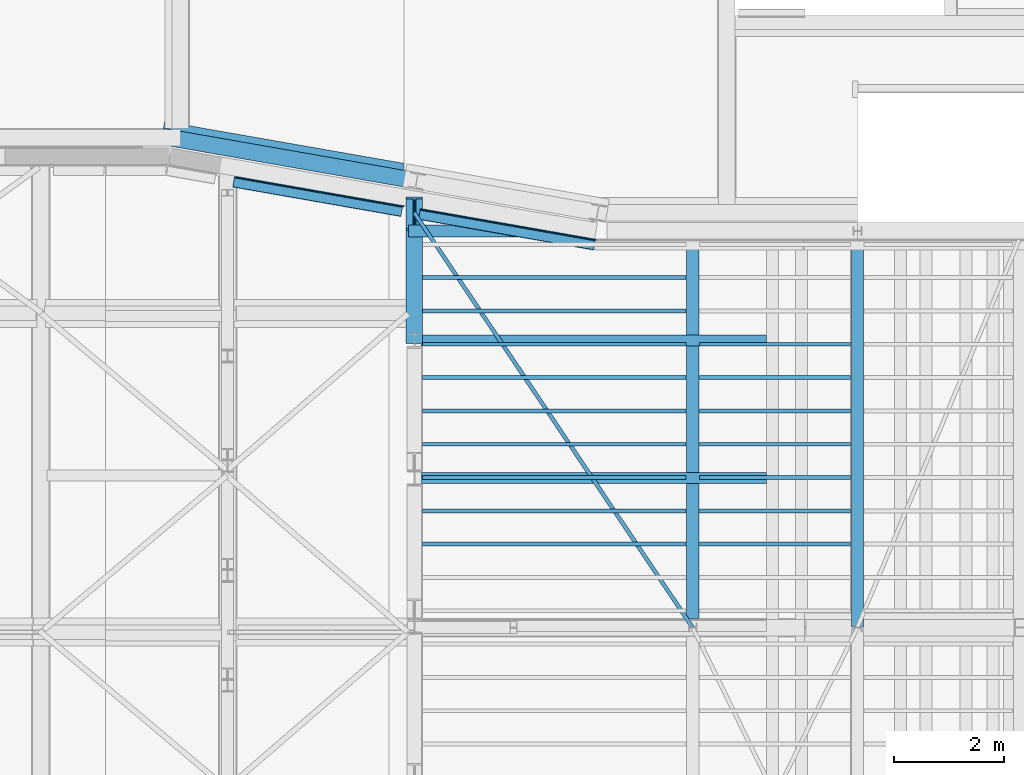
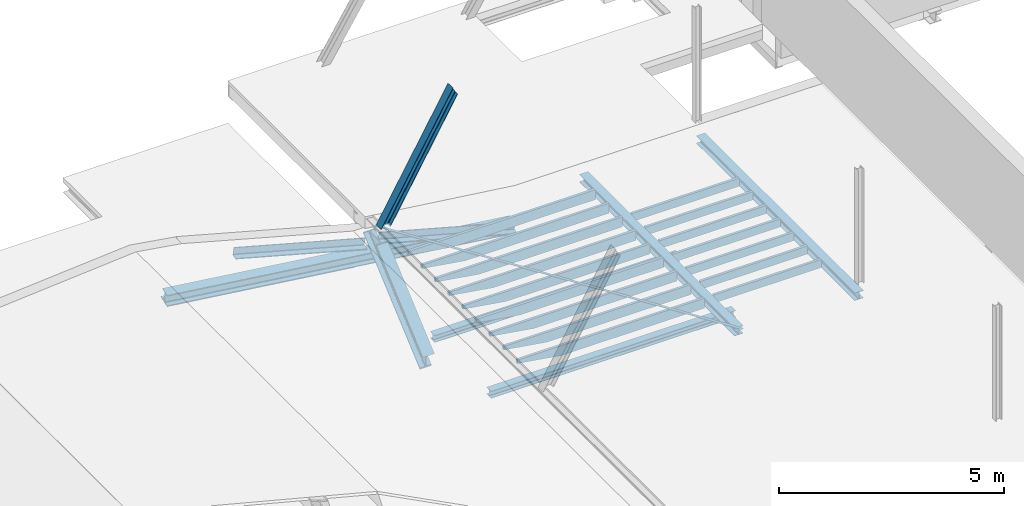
# One storey, part 31 of 50: 26 beams.
"""IFC2X3 building model written with IfcOpenShell, lengths in millimetres."""

from ifc_helpers import new_model, entity, si_unit, converted_unit, derived_unit, direction, frame, frame_2d, origin, origin_2d_with_axis, place, context, subcontext, project, spatial, polyline, circle_curve, parameter, trimmed, segment, composite_curve, rectangle, i_section, outline, extrude, clip, halfspace, bounded_halfspace, source, transform, mapped, material, material_list, type_object, type_shapes, element, save


model = new_model("IFC2X3")

# Units and contexts
model_context = context("Model", 3, precision=0.01, world=origin(), true_north=direction((6.12303176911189e-17, 1.0)))
body_context = subcontext(model_context, "Body", "Model", "MODEL_VIEW")
ifc_project = project(units=[si_unit("LENGTHUNIT", "METRE", prefix="MILLI"), si_unit("AREAUNIT", "SQUARE_METRE", prefix="MILLI"), si_unit("VOLUMEUNIT", "CUBIC_METRE"), converted_unit("PLANEANGLEUNIT", "DEGREE", entity("IfcRatioMeasure", 0.0174532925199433), si_unit("PLANEANGLEUNIT", "RADIAN"), dimensions=[0, 0, 0, 0, 0, 0, 0]), si_unit("MASSUNIT", "GRAM", prefix="KILO"), derived_unit("MASSDENSITYUNIT", [(si_unit("MASSUNIT", "GRAM", prefix="KILO"), 1), (si_unit("LENGTHUNIT", "METRE"), -3)]), derived_unit("MOMENTOFINERTIAUNIT", [(si_unit("LENGTHUNIT", "METRE"), 4)]), si_unit("TIMEUNIT", "SECOND"), si_unit("FREQUENCYUNIT", "HERTZ"), si_unit("THERMODYNAMICTEMPERATUREUNIT", "DEGREE_CELSIUS"), derived_unit("THERMALTRANSMITTANCEUNIT", [(si_unit("MASSUNIT", "GRAM", prefix="KILO"), 1), (si_unit("THERMODYNAMICTEMPERATUREUNIT", "KELVIN"), -1), (si_unit("TIMEUNIT", "SECOND"), -3)]), derived_unit("VOLUMETRICFLOWRATEUNIT", [(si_unit("LENGTHUNIT", "METRE"), 3), (si_unit("TIMEUNIT", "SECOND"), -1)]), si_unit("ELECTRICCURRENTUNIT", "AMPERE"), si_unit("ELECTRICVOLTAGEUNIT", "VOLT"), si_unit("POWERUNIT", "WATT"), si_unit("FORCEUNIT", "NEWTON", prefix="KILO"), si_unit("ILLUMINANCEUNIT", "LUX"), si_unit("LUMINOUSFLUXUNIT", "LUMEN"), si_unit("LUMINOUSINTENSITYUNIT", "CANDELA"), derived_unit("USERDEFINED", [(si_unit("MASSUNIT", "GRAM", prefix="KILO"), -1), (si_unit("LENGTHUNIT", "METRE"), -2), (si_unit("TIMEUNIT", "SECOND"), 3), (si_unit("LUMINOUSFLUXUNIT", "LUMEN"), 1)]), derived_unit("LINEARVELOCITYUNIT", [(si_unit("LENGTHUNIT", "METRE"), 1), (si_unit("TIMEUNIT", "SECOND"), -1)]), si_unit("PRESSUREUNIT", "PASCAL"), derived_unit("USERDEFINED", [(si_unit("LENGTHUNIT", "METRE"), -2), (si_unit("MASSUNIT", "GRAM", prefix="KILO"), 1), (si_unit("TIMEUNIT", "SECOND"), -2)]), derived_unit("LINEARFORCEUNIT", [(si_unit("MASSUNIT", "GRAM", prefix="KILO"), 1), (si_unit("LENGTHUNIT", "METRE"), 1), (si_unit("TIMEUNIT", "SECOND"), -2), (si_unit("LENGTHUNIT", "METRE"), -1)]), derived_unit("PLANARFORCEUNIT", [(si_unit("MASSUNIT", "GRAM", prefix="KILO"), 1), (si_unit("LENGTHUNIT", "METRE"), 1), (si_unit("TIMEUNIT", "SECOND"), -2), (si_unit("LENGTHUNIT", "METRE"), -2)])], contexts=[model_context])

# Site, building, storey
site_placement = place(None, origin())
site = spatial("IfcSite", under=ifc_project, at=site_placement, Name="Theater aan de Parade", CompositionType="ELEMENT")
building_placement = place(site_placement, origin())
building = spatial("IfcBuilding", under=site, at=building_placement, Name="Theater aan de Parade", CompositionType="ELEMENT")
storey_placement = place(building_placement, frame((0.0, 0.0, 15820.0)))
storey = spatial("IfcBuildingStorey", under=building, at=storey_placement, Name="04 vierde verdieping", CompositionType="ELEMENT", Elevation=15820.0)

# Beams
ifc_material_1 = material(Name="00_PBT_MAT_staal_S355")
ifc_material_2 = material(Name="00_PBT_MAT_Lucht")
ifc_material_list = material_list([ifc_material_2, ifc_material_1])
beam_type_1 = type_object("IfcBeamType", Name="28_PBT_SF_staal_H-profiel_met_ondergelaste_strip (void):S355_HE300B + ondergelaste strip d=12", PredefinedType="BEAM", material=ifc_material_list)
shared_shape = source(origin(), body_context, "Body", "SweptSolid", [
    extrude(rectangle(XDim=12.0, YDim=420.0, at=origin_2d_with_axis()), frame((-4112.59046725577, 65.0, -156.0), z_axis=(1.0, 0.0, 0.0), x_axis=(0.0, 0.0, -1.0)), (0.0, 0.0, 1.0), 4431.18093451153),
    extrude(outline(composite_curve([segment(polyline([(131.0, -150.0), (150.0, -150.0)]), True, "CONTINUOUS"), segment(polyline([(150.0, -150.0), (150.0, 150.0)]), True, "CONTINUOUS"), segment(polyline([(150.0, 150.0), (131.0, 150.0)]), True, "CONTINUOUS"), segment(polyline([(131.0, 150.0), (131.0, 32.5)]), True, "CONTINUOUS"), segment(trimmed(circle_curve(frame_2d((104.0, 32.5), x_axis=(1.0, 0.0)), 27.0000000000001), [parameter(270.0)], [parameter(0.0)], True, "PARAMETER"), False, "CONTINUOUS"), segment(polyline([(104.0, 5.49999999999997), (-104.0, 5.49999999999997)]), True, "CONTINUOUS"), segment(trimmed(circle_curve(frame_2d((-104.0, 32.5), x_axis=(0.0, -1.0)), 27.0), [parameter(270.0)], [parameter(0.0)], True, "PARAMETER"), False, "CONTINUOUS"), segment(polyline([(-131.0, 32.5), (-131.0, 150.0)]), True, "CONTINUOUS"), segment(polyline([(-131.0, 150.0), (-150.0, 150.0)]), True, "CONTINUOUS"), segment(polyline([(-150.0, 150.0), (-150.0, -150.0)]), True, "CONTINUOUS"), segment(polyline([(-150.0, -150.0), (-131.0, -150.0)]), True, "CONTINUOUS"), segment(polyline([(-131.0, -150.0), (-131.0, -32.5)]), True, "CONTINUOUS"), segment(trimmed(circle_curve(frame_2d((-104.0, -32.5), x_axis=(-1.0, 0.0)), 27.0), [parameter(269.999999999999)], [parameter(0.0)], True, "PARAMETER"), False, "CONTINUOUS"), segment(polyline([(-104.0, -5.50000000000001), (104.0, -5.50000000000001)]), True, "CONTINUOUS"), segment(trimmed(circle_curve(frame_2d((104.0, -32.5), x_axis=(0.0, 1.0)), 27.0), [parameter(270.0)], [parameter(0.0)], True, "PARAMETER"), False, "CONTINUOUS"), segment(polyline([(131.0, -32.5), (131.0, -150.0)]), True, "CONTINUOUS")], self_intersect=False)), frame((-4113.59046725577, 0.0, 0.0), z_axis=(1.0, 0.0, 0.0), x_axis=(0.0, 0.0, -1.0)), (0.0, 0.0, 1.0), 8227.18093451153),
])
type_shapes(beam_type_1, [shared_shape])
beam_1_placement = place(storey_placement, frame((55596.7451545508, 43715.1901551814, 160.0), z_axis=(0.0, 0.0, 1.0), x_axis=(0.985030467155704, -0.172380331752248, 0.0)))
element("IfcBeam", 1, at=beam_1_placement, inside=storey, type_object=beam_type_1, material=ifc_material_1, Name="28_PBT_SF_staal_H-profiel_met_ondergelaste_strip (void):S355_HE300B + ondergelaste strip d=12", ObjectType="28_PBT_SF_staal_H-profiel_met_ondergelaste_strip (void):S355_HE300B + ondergelaste strip d=12", context=body_context, shape_type="MappedRepresentation", body=[
    mapped(shared_shape, transform((0.0, 0.0, 0.0), scale=1.0)),
])
beam_type_2 = type_object("IfcBeamType", Name="28_PBT_SF_staal_H-profiel:S355_HE220A", PredefinedType="NOTDEFINED")
beam_2_placement = place(storey_placement, frame((56020.0226436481, 42700.0, 1501.58279935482), z_axis=(0.866025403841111, 0.0, -0.499999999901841), x_axis=(0.499999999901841, 0.0, 0.866025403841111)))
element("IfcBeam", 2, at=beam_2_placement, inside=storey, type_object=beam_type_2, material=ifc_material_1, Name="28_PBT_SF_staal_H-profiel:S355_HE220A", ObjectType="28_PBT_SF_staal_H-profiel:S355_HE220A", context=body_context, shape_type="Clipping", body=[
    clip(clip(extrude(outline(composite_curve([segment(polyline([(94.0, -110.0), (105.0, -110.0)]), True, "CONTINUOUS"), segment(polyline([(105.0, -110.0), (105.0, 110.0)]), True, "CONTINUOUS"), segment(polyline([(105.0, 110.0), (94.0, 110.0)]), True, "CONTINUOUS"), segment(polyline([(94.0, 110.0), (94.0, 21.5000000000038)]), True, "CONTINUOUS"), segment(trimmed(circle_curve(frame_2d((76.0, 21.5000000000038), x_axis=(1.0, 0.0)), 17.9999999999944), [parameter(269.999999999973)], [parameter(0.0)], True, "PARAMETER"), False, "CONTINUOUS"), segment(polyline([(76.0, 3.4999999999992), (-76.0, 3.4999999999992)]), True, "CONTINUOUS"), segment(trimmed(circle_curve(frame_2d((-76.0, 21.5000000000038), x_axis=(0.0, -1.0)), 17.9999999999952), [parameter(269.999999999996)], [parameter(0.0)], True, "PARAMETER"), False, "CONTINUOUS"), segment(polyline([(-94.0, 21.5000000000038), (-94.0, 110.0)]), True, "CONTINUOUS"), segment(polyline([(-94.0, 110.0), (-105.0, 110.0)]), True, "CONTINUOUS"), segment(polyline([(-105.0, 110.0), (-105.0, -110.0)]), True, "CONTINUOUS"), segment(polyline([(-105.0, -110.0), (-94.0, -110.0)]), True, "CONTINUOUS"), segment(polyline([(-94.0, -110.0), (-94.0, -21.4999999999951)]), True, "CONTINUOUS"), segment(trimmed(circle_curve(frame_2d((-76.0, -21.4999999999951), x_axis=(-1.0, 0.0)), 17.9999999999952), [parameter(269.999999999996)], [parameter(0.0)], True, "PARAMETER"), False, "CONTINUOUS"), segment(polyline([(-76.0, -3.4999999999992), (76.0, -3.4999999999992)]), True, "CONTINUOUS"), segment(trimmed(circle_curve(frame_2d((76.0, -21.4999999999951), x_axis=(0.0, 1.0)), 17.999999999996), [parameter(269.999999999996)], [parameter(0.0)], True, "PARAMETER"), False, "CONTINUOUS"), segment(polyline([(94.0, -21.4999999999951), (94.0, -110.0)]), True, "CONTINUOUS")], self_intersect=False)), frame((38.5868595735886, 0.0, 105.0), z_axis=(1.0, 0.0, 0.0), x_axis=(0.0, 0.0, -1.0)), (0.0, 0.0, 1.0), 3698.2983901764), halfspace(frame((175.616197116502, 21178.7704462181, 237.341774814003), z_axis=(-0.866025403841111, 0.0, 0.499999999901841), x_axis=(0.0, -1.0, 0.0)), False)), halfspace(frame((3733.05475086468, 11342.2001724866, 6.82799367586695), z_axis=(0.872134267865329, 0.0, 0.489266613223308), x_axis=(0.489266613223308, 0.0, -0.872134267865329)), False)),
])
beam_3_placement = place(storey_placement, frame((64216.05603639, 42700.0, 0.0), z_axis=(0.0, 0.0, 1.0), x_axis=(0.0, -1.0, 0.0)))
element("IfcBeam", 3, at=beam_3_placement, inside=storey, type_object=beam_type_2, material=ifc_material_1, Name="28_PBT_SF_staal_H-profiel:S355_HE220A", ObjectType="28_PBT_SF_staal_H-profiel:S355_HE220A", context=body_context, shape_type="SweptSolid", body=[
    extrude(outline(composite_curve([segment(polyline([(94.0, -110.0), (105.0, -110.0)]), True, "CONTINUOUS"), segment(polyline([(105.0, -110.0), (105.0, 110.0)]), True, "CONTINUOUS"), segment(polyline([(105.0, 110.0), (94.0, 110.0)]), True, "CONTINUOUS"), segment(polyline([(94.0, 110.0), (94.0, 21.5000000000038)]), True, "CONTINUOUS"), segment(trimmed(circle_curve(frame_2d((76.0, 21.5000000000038), x_axis=(1.0, 0.0)), 17.9999999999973), [parameter(269.999999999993)], [parameter(0.0)], True, "PARAMETER"), False, "CONTINUOUS"), segment(polyline([(76.0, 3.4999999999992), (-76.0, 3.4999999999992)]), True, "CONTINUOUS"), segment(trimmed(circle_curve(frame_2d((-76.0, 21.5000000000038), x_axis=(0.0, -1.0)), 17.9999999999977), [parameter(269.999999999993)], [parameter(0.0)], True, "PARAMETER"), False, "CONTINUOUS"), segment(polyline([(-94.0, 21.5000000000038), (-94.0, 110.0)]), True, "CONTINUOUS"), segment(polyline([(-94.0, 110.0), (-105.0, 110.0)]), True, "CONTINUOUS"), segment(polyline([(-105.0, 110.0), (-105.0, -110.0)]), True, "CONTINUOUS"), segment(polyline([(-105.0, -110.0), (-94.0, -110.0)]), True, "CONTINUOUS"), segment(polyline([(-94.0, -110.0), (-94.0, -21.4999999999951)]), True, "CONTINUOUS"), segment(trimmed(circle_curve(frame_2d((-76.0, -21.4999999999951), x_axis=(-1.0, 0.0)), 17.9999999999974), [parameter(269.999999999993)], [parameter(0.0)], True, "PARAMETER"), False, "CONTINUOUS"), segment(polyline([(-76.0, -3.4999999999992), (76.0, -3.4999999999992)]), True, "CONTINUOUS"), segment(trimmed(circle_curve(frame_2d((76.0, -21.4999999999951), x_axis=(0.0, 1.0)), 17.9999999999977), [parameter(269.999999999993)], [parameter(0.0)], True, "PARAMETER"), False, "CONTINUOUS"), segment(polyline([(94.0, -21.5000000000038), (94.0, -110.0)]), True, "CONTINUOUS")], self_intersect=False)), frame((162.700000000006, 0.0, 1195.0), z_axis=(1.0, 0.0, 0.0), x_axis=(0.0, 0.0, -1.0)), (0.0, 0.0, 1.0), 7052.10000380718),
])
beam_4_placement = place(storey_placement, frame((61216.05603639, 42700.0, 0.0), z_axis=(0.0, 0.0, 1.0), x_axis=(0.0, -1.0, 0.0)))
element("IfcBeam", 4, at=beam_4_placement, inside=storey, type_object=beam_type_2, material=ifc_material_1, Name="28_PBT_SF_staal_H-profiel:S355_HE220A", ObjectType="28_PBT_SF_staal_H-profiel:S355_HE220A", context=body_context, shape_type="SweptSolid", body=[
    extrude(outline(composite_curve([segment(polyline([(94.0, -110.0), (105.0, -110.0)]), True, "CONTINUOUS"), segment(polyline([(105.0, -110.0), (105.0, 110.0)]), True, "CONTINUOUS"), segment(polyline([(105.0, 110.0), (94.0, 110.0)]), True, "CONTINUOUS"), segment(polyline([(94.0, 110.0), (94.0, 21.5000000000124)]), True, "CONTINUOUS"), segment(trimmed(circle_curve(frame_2d((76.0, 21.5000000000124), x_axis=(1.0, 0.0)), 17.9999999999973), [parameter(269.999999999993)], [parameter(0.0)], True, "PARAMETER"), False, "CONTINUOUS"), segment(polyline([(76.0, 3.50000000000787), (-76.0, 3.50000000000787)]), True, "CONTINUOUS"), segment(trimmed(circle_curve(frame_2d((-76.0, 21.5000000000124), x_axis=(0.0, -1.0)), 17.9999999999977), [parameter(269.999999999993)], [parameter(0.0)], True, "PARAMETER"), False, "CONTINUOUS"), segment(polyline([(-94.0, 21.5000000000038), (-94.0, 110.0)]), True, "CONTINUOUS"), segment(polyline([(-94.0, 110.0), (-105.0, 110.0)]), True, "CONTINUOUS"), segment(polyline([(-105.0, 110.0), (-105.0, -110.0)]), True, "CONTINUOUS"), segment(polyline([(-105.0, -110.0), (-94.0, -110.0)]), True, "CONTINUOUS"), segment(polyline([(-94.0, -110.0), (-94.0, -21.4999999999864)]), True, "CONTINUOUS"), segment(trimmed(circle_curve(frame_2d((-76.0, -21.4999999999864), x_axis=(-1.0, 0.0)), 17.9999999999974), [parameter(269.999999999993)], [parameter(0.0)], True, "PARAMETER"), False, "CONTINUOUS"), segment(polyline([(-76.0, -3.49999999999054), (76.0, -3.49999999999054)]), True, "CONTINUOUS"), segment(trimmed(circle_curve(frame_2d((76.0, -21.4999999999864), x_axis=(0.0, 1.0)), 17.9999999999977), [parameter(269.999999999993)], [parameter(0.0)], True, "PARAMETER"), False, "CONTINUOUS"), segment(polyline([(94.0, -21.4999999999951), (94.0, -110.0)]), True, "CONTINUOUS")], self_intersect=False)), frame((162.700000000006, 0.0, 1195.0), z_axis=(1.0, 0.0, 0.0), x_axis=(0.0, 0.0, -1.0)), (0.0, 0.0, 1.0), 6902.10000441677),
])
beam_type_3 = type_object("IfcBeamType", Name="28_PBT_SF_staal_L-profiel:S355_L200x200x20", PredefinedType="NOTDEFINED")
beam_5_placement = place(storey_placement, frame((52917.821709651, 43639.4828047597, 1689.7403884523), z_axis=(0.15184123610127, -0.0265722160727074, 0.988047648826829), x_axis=(0.973257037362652, -0.170319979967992, -0.154148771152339)))
element("IfcBeam", 5, at=beam_5_placement, inside=storey, type_object=beam_type_3, material=ifc_material_1, Name="28_PBT_SF_staal_L-profiel:S355_L200x200x20", ObjectType="28_PBT_SF_staal_L-profiel:S355_L200x200x20", context=body_context, shape_type="SweptSolid", body=[
    extrude(outline(composite_curve([segment(polyline([(-75.5555555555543, -75.5555555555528), (124.444444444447, -75.555555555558)]), True, "CONTINUOUS"), segment(polyline([(124.444444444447, -75.555555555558), (124.444444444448, -64.5555555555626)]), True, "CONTINUOUS"), segment(trimmed(circle_curve(frame_2d((115.444444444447, -64.5555555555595), x_axis=(1.0, 0.0)), 8.99999999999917), [parameter(0.0)], [parameter(90.0000000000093)], True, "PARAMETER"), True, "CONTINUOUS"), segment(polyline([(115.444444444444, -55.5555555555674), (-37.5555555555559, -55.5555555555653)]), True, "CONTINUOUS"), segment(trimmed(circle_curve(frame_2d((-37.5555555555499, -37.5555555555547), x_axis=(0.0, -1.0)), 18.0000000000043), [parameter(270.000000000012)], [parameter(0.0)], True, "PARAMETER"), False, "CONTINUOUS"), segment(polyline([(-55.5555555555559, -37.5555555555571), (-55.5555555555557, 115.444444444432)]), True, "CONTINUOUS"), segment(trimmed(circle_curve(frame_2d((-64.5555555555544, 115.444444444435), x_axis=(1.0, 0.0)), 8.99999999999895), [parameter(0.0)], [parameter(90.0000000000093)], True, "PARAMETER"), True, "CONTINUOUS"), segment(polyline([(-64.5555555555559, 124.444444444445), (-75.5555555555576, 124.444444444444)]), True, "CONTINUOUS"), segment(polyline([(-75.5555555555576, 124.444444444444), (-75.5555555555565, -75.5555555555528)]), True, "CONTINUOUS")], self_intersect=False)), frame((0.0, -27.3629456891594, -318.822510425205), z_axis=(1.0, 0.0, 0.0), x_axis=(0.0, 0.0269662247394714, 0.999636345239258)), (0.0, 0.0, 1.0), 3147.54957756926),
])
beam_6_placement = place(storey_placement, frame((56284.5742764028, 43050.3011110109, 1156.49916746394), z_axis=(0.15184123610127, -0.0265722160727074, 0.988047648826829), x_axis=(0.973257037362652, -0.170319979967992, -0.154148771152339)))
element("IfcBeam", 6, at=beam_6_placement, inside=storey, type_object=beam_type_3, material=ifc_material_1, Name="28_PBT_SF_staal_L-profiel:S355_L200x200x20", ObjectType="28_PBT_SF_staal_L-profiel:S355_L200x200x20", context=body_context, shape_type="SweptSolid", body=[
    extrude(outline(composite_curve([segment(polyline([(-75.5555555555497, -75.5555555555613), (124.444444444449, -75.5555555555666)]), True, "CONTINUOUS"), segment(polyline([(124.444444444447, -75.5555555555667), (124.444444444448, -64.5555555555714)]), True, "CONTINUOUS"), segment(trimmed(circle_curve(frame_2d((115.444444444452, -64.5555555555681), x_axis=(1.0, 0.0)), 8.99999999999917), [parameter(0.0)], [parameter(90.0000000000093)], True, "PARAMETER"), True, "CONTINUOUS"), segment(polyline([(115.444444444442, -55.5555555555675), (-37.5555555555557, -55.5555555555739)]), True, "CONTINUOUS"), segment(trimmed(circle_curve(frame_2d((-37.5555555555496, -37.5555555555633), x_axis=(0.0, -1.0)), 18.0000000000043), [parameter(270.000000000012)], [parameter(0.0)], True, "PARAMETER"), False, "CONTINUOUS"), segment(polyline([(-55.5555555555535, -37.5555555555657), (-55.5555555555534, 115.444444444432)]), True, "CONTINUOUS"), segment(trimmed(circle_curve(frame_2d((-64.555555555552, 115.444444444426), x_axis=(1.0, 0.0)), 8.99999999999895), [parameter(0.0)], [parameter(90.0000000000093)], True, "PARAMETER"), True, "CONTINUOUS"), segment(polyline([(-64.5555555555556, 124.444444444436), (-75.555555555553, 124.444444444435)]), True, "CONTINUOUS"), segment(polyline([(-75.555555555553, 124.444444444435), (-75.5555555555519, -75.5555555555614)]), True, "CONTINUOUS")], self_intersect=False)), frame((0.0, -24.126998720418, -198.866148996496), z_axis=(1.0, 0.0, 0.0), x_axis=(0.0, 0.0269662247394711, 0.999636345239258)), (0.0, 0.0, 1.0), 3270.90873963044),
])
beam_type_4 = type_object("IfcBeamType", Name="28_PBT_SF_staal_H-profiel:S355_HE200A", PredefinedType="NOTDEFINED")
beam_7_placement = place(storey_placement, frame((62560.0, 38200.0, 0.0), z_axis=(0.0, 0.0, 1.0), x_axis=(-1.0, 0.0, 0.0)))
element("IfcBeam", 7, at=beam_7_placement, inside=storey, type_object=beam_type_4, material=ifc_material_1, Name="28_PBT_SF_staal_H-profiel:S355_HE200A", ObjectType="28_PBT_SF_staal_H-profiel:S355_HE200A", context=body_context, shape_type="SweptSolid", body=[
    extrude(i_section(OverallWidth=199.999999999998, OverallDepth=190.0, WebThickness=6.50000000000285, FlangeThickness=9.99999999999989, FilletRadius=18.0000000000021, at=frame_2d((0.0, 6.50146603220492e-12), x_axis=(0.0, 1.0))), frame((0.0, 0.0, -310.0), z_axis=(1.0, 0.0, 0.0), x_axis=(0.0, 0.0, -1.0)), (0.0, 0.0, 1.0), 6286.62525142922),
])
beam_8_placement = place(storey_placement, frame((62560.0, 40700.0, 0.0), z_axis=(0.0, 0.0, 1.0), x_axis=(-1.0, 0.0, 0.0)))
element("IfcBeam", 8, at=beam_8_placement, inside=storey, type_object=beam_type_4, material=ifc_material_1, Name="28_PBT_SF_staal_H-profiel:S355_HE200A", ObjectType="28_PBT_SF_staal_H-profiel:S355_HE200A", context=body_context, shape_type="SweptSolid", body=[
    extrude(i_section(OverallWidth=199.999999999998, OverallDepth=190.0, WebThickness=6.49999999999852, FlangeThickness=9.99999999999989, FilletRadius=17.9999999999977, at=frame_2d((0.0, 4.33431068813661e-12), x_axis=(0.0, 1.0))), frame((0.0, 0.0, -310.0), z_axis=(1.0, 0.0, 0.0), x_axis=(0.0, 0.0, -1.0)), (0.0, 0.0, 1.0), 6286.62525142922),
])
beam_type_5 = type_object("IfcBeamType", Name="28_PBT_SF_staal_H-profiel:S355_HE400B", PredefinedType="NOTDEFINED")
beam_9_placement = place(storey_placement, frame((56143.3747485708, 40700.0, -960.0), z_axis=(0.0, -0.654376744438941, 0.756168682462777), x_axis=(0.0, 0.756168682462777, 0.654376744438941)))
element("IfcBeam", 9, at=beam_9_placement, inside=storey, type_object=beam_type_5, material=ifc_material_1, Name="28_PBT_SF_staal_H-profiel:S355_HE400B", ObjectType="28_PBT_SF_staal_H-profiel:S355_HE400B", context=body_context, shape_type="Clipping", body=[
    clip(clip(clip(extrude(outline(composite_curve([segment(polyline([(176.0, -150.0), (200.0, -150.0)]), True, "CONTINUOUS"), segment(polyline([(200.0, -150.0), (200.0, 150.0)]), True, "CONTINUOUS"), segment(polyline([(200.0, 150.0), (176.0, 150.0)]), True, "CONTINUOUS"), segment(polyline([(176.0, 150.0), (176.0, 33.749999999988)]), True, "CONTINUOUS"), segment(trimmed(circle_curve(frame_2d((149.0, 33.7499999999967), x_axis=(1.0, 0.0)), 26.9999999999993), [parameter(269.999999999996)], [parameter(0.0)], True, "PARAMETER"), False, "CONTINUOUS"), segment(polyline([(149.0, 6.74999999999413), (-149.0, 6.74999999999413)]), True, "CONTINUOUS"), segment(trimmed(circle_curve(frame_2d((-149.0, 33.7499999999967), x_axis=(0.0, -1.0)), 27.0), [parameter(269.999999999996)], [parameter(0.0)], True, "PARAMETER"), False, "CONTINUOUS"), segment(polyline([(-176.0, 33.7499999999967), (-176.0, 150.0)]), True, "CONTINUOUS"), segment(polyline([(-176.0, 150.0), (-200.0, 150.0)]), True, "CONTINUOUS"), segment(polyline([(-200.0, 150.0), (-200.0, -150.0)]), True, "CONTINUOUS"), segment(polyline([(-200.0, -150.0), (-176.0, -150.0)]), True, "CONTINUOUS"), segment(polyline([(-176.0, -150.0), (-176.0, -33.7500000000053)]), True, "CONTINUOUS"), segment(trimmed(circle_curve(frame_2d((-149.0, -33.7500000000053), x_axis=(-1.0, 0.0)), 27.0), [parameter(269.999999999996)], [parameter(0.0)], True, "PARAMETER"), False, "CONTINUOUS"), segment(polyline([(-149.0, -6.7500000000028), (149.0, -6.7500000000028)]), True, "CONTINUOUS"), segment(trimmed(circle_curve(frame_2d((149.0, -33.750000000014), x_axis=(0.0, 1.0)), 27.0000000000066), [parameter(270.000000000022)], [parameter(0.0)], True, "PARAMETER"), False, "CONTINUOUS"), segment(polyline([(176.0, -33.7500000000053), (176.0, -150.0)]), True, "CONTINUOUS")], self_intersect=False)), frame((-56.4522425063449, 0.0, 0.0), z_axis=(1.0, 0.0, 0.0), x_axis=(0.0, 0.0, -1.0)), (0.0, 0.0, 1.0), 3351.54754474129), halfspace(frame((-13190.3602069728, 170.0, 14066.2595752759), z_axis=(0.654376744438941, 0.0, 0.756168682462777), x_axis=(0.756168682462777, 0.0, -0.654376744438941)), False)), bounded_halfspace(frame((-12503.0014804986, -170.0, 11110.845502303), z_axis=(-0.654376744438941, 0.0, -0.756168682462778), x_axis=(0.756168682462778, 0.0, -0.654376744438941)), False, frame((-56.4522425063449, 0.0, 0.0), z_axis=(1.0, 0.0, 0.0), x_axis=(0.0, 0.0, -1.0)), polyline([(-108.648978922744, 6.7499999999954), (-108.648978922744, -6.75000000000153), (-149.0, -6.75000000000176), (-176.0, -33.7500000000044), (-176.0, -150.0), (-200.0, -150.0), (-200.0, 150.0), (-176.0, 150.0), (-176.0, 33.7499999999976), (-149.0, 6.74999999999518), (-108.648978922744, 6.7499999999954)]))), bounded_halfspace(frame((66.6849516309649, 0.0, -57.7081312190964), z_axis=(-0.756168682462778, 0.0, 0.654376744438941), x_axis=(0.0, 1.0, 0.0)), False, frame((-56.4522425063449, 0.0, 0.0), z_axis=(1.0, 0.0, 0.0), x_axis=(0.0, 0.0, -1.0)), polyline([(-108.648978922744, -6.75000000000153), (-108.648978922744, 6.7499999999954), (149.0, 6.74999999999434), (176.0, 33.7499999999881), (176.0, 150.0), (200.0, 150.0), (200.0, -150.0), (176.0, -150.0), (176.0, -33.7500000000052), (149.0, -6.75000000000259), (-108.648978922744, -6.75000000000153)]))),
])
ifc_material_3 = material(Name="00_PBT_MAT_hout")
beam_type_6 = type_object("IfcBeamType", Name="28_PBT_SF_rechthoekig hout:70x270", PredefinedType="NOTDEFINED")
beam_10_placement = place(storey_placement, frame((61216.0560363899, 36993.0, 0.0), z_axis=(0.0, 0.0, 1.0), x_axis=(-1.0, 0.0, 0.0)))
element("IfcBeam", 10, at=beam_10_placement, inside=storey, type_object=beam_type_6, material=ifc_material_3, Name="28_PBT_SF_rechthoekig hout:70x270", ObjectType="28_PBT_SF_rechthoekig hout:70x270", context=body_context, shape_type="Clipping", body=[
    clip(extrude(rectangle(XDim=270.000000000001, YDim=70.0000000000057, at=frame_2d((-2.16715534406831e-12, 0.0), x_axis=(0.0, 1.0))), frame((122.699999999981, 0.0, 1187.0), z_axis=(1.0, 0.0, 0.0), x_axis=(0.0, 1.0, 0.0)), (0.0, 0.0, 1.0), 4799.9812878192), halfspace(frame((2971.92563283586, 4922.68128781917, 920.0), z_axis=(0.156434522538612, 0.0, -0.987688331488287), x_axis=(0.0, -1.0, 0.0)), False)),
])
beam_11_placement = place(storey_placement, frame((61216.0560363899, 37600.0, 0.0), z_axis=(0.0, 0.0, 1.0), x_axis=(-1.0, 0.0, 0.0)))
element("IfcBeam", 11, at=beam_11_placement, inside=storey, type_object=beam_type_6, material=ifc_material_3, Name="28_PBT_SF_rechthoekig hout:70x270", ObjectType="28_PBT_SF_rechthoekig hout:70x270", context=body_context, shape_type="Clipping", body=[
    clip(extrude(rectangle(XDim=270.000000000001, YDim=70.0000000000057, at=frame_2d((-2.16715534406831e-12, 0.0), x_axis=(0.0, 1.0))), frame((122.699999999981, 0.0, 1187.0), z_axis=(1.0, 0.0, 0.0), x_axis=(0.0, 1.0, 0.0)), (0.0, 0.0, 1.0), 4799.9812878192), halfspace(frame((2971.92563283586, 4922.68128781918, 920.0), z_axis=(0.156434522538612, 0.0, -0.987688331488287), x_axis=(0.0, -1.0, 0.0)), False)),
])
beam_12_placement = place(storey_placement, frame((61216.0560363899, 38207.0, 0.0), z_axis=(0.0, 0.0, 1.0), x_axis=(-1.0, 0.0, 0.0)))
element("IfcBeam", 12, at=beam_12_placement, inside=storey, type_object=beam_type_6, material=ifc_material_3, Name="28_PBT_SF_rechthoekig hout:70x270", ObjectType="28_PBT_SF_rechthoekig hout:70x270", context=body_context, shape_type="Clipping", body=[
    clip(extrude(rectangle(XDim=270.000000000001, YDim=70.0000000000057, at=frame_2d((-2.16715534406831e-12, 0.0), x_axis=(0.0, 1.0))), frame((122.699999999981, 0.0, 1187.0), z_axis=(1.0, 0.0, 0.0), x_axis=(0.0, 1.0, 0.0)), (0.0, 0.0, 1.0), 4799.9812878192), halfspace(frame((2971.92563283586, 4922.68128781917, 920.0), z_axis=(0.156434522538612, 0.0, -0.987688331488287), x_axis=(0.0, -1.0, 0.0)), False)),
])
beam_13_placement = place(storey_placement, frame((61216.0560363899, 38814.0, 0.0), z_axis=(0.0, 0.0, 1.0), x_axis=(-1.0, 0.0, 0.0)))
element("IfcBeam", 13, at=beam_13_placement, inside=storey, type_object=beam_type_6, material=ifc_material_3, Name="28_PBT_SF_rechthoekig hout:70x270", ObjectType="28_PBT_SF_rechthoekig hout:70x270", context=body_context, shape_type="Clipping", body=[
    clip(extrude(rectangle(XDim=270.000000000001, YDim=70.0000000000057, at=frame_2d((2.16715534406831e-12, 0.0), x_axis=(0.0, 1.0))), frame((122.699999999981, 0.0, 1187.0), z_axis=(1.0, 0.0, 0.0), x_axis=(0.0, 1.0, 0.0)), (0.0, 0.0, 1.0), 4799.9812878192), halfspace(frame((2971.92563283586, 4922.68128781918, 920.0), z_axis=(0.156434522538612, 0.0, -0.987688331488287), x_axis=(0.0, -1.0, 0.0)), False)),
])
for number, where, z_axis, x_axis, name in (
    (14, (61216.0560363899, 39421.0, 0.0), (0.0, 0.0, 1.0), (-1.0, 0.0, 0.0), "28_PBT_SF_rechthoekig hout:70x270"),
    (15, (61216.0560363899, 40028.0, 0.0), (0.0, 0.0, 1.0), (-1.0, 0.0, 0.0), "28_PBT_SF_rechthoekig hout:70x270"),
    (16, (61216.0560363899, 40635.0, 0.0), (0.0, 0.0, 1.0), (-1.0, 0.0, 0.0), "28_PBT_SF_rechthoekig hout:70x270"),
    (17, (61216.0560363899, 41242.0, 0.0), (0.0, 0.0, 1.0), (-1.0, 0.0, 0.0), "28_PBT_SF_rechthoekig hout:70x270"),
    (18, (61216.0560363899, 41849.0, 0.0), (0.0, 0.0, 1.0), (-1.0, 0.0, 0.0), "28_PBT_SF_rechthoekig hout:70x270"),
):
    element("IfcBeam", number, at=place(storey_placement, frame(where, z_axis=z_axis, x_axis=x_axis)), inside=storey, type_object=beam_type_6, material=ifc_material_3, Name=name, ObjectType="28_PBT_SF_rechthoekig hout:70x270", context=body_context, shape_type="Clipping", body=[
        clip(extrude(rectangle(XDim=270.000000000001, YDim=70.0000000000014, at=frame_2d((0.0, 0.0), x_axis=(0.0, 1.0))), frame((122.699999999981, 0.0, 1187.0), z_axis=(1.0, 0.0, 0.0), x_axis=(0.0, 1.0, 0.0)), (0.0, 0.0, 1.0), 4799.9812878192), halfspace(frame((2971.92563283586, 4922.68128781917, 920.0), z_axis=(0.156434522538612, 0.0, -0.987688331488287), x_axis=(0.0, -1.0, 0.0)), False)),
    ])
beam_type_7 = type_object("IfcBeamType", Name="28_PBT_SF_rechthoekig hout:70x220", PredefinedType="NOTDEFINED")
for number, where, name in (
    (19, (61216.05603639, 36993.0, 0.0), "28_PBT_SF_rechthoekig hout:70x220"),
    (20, (61216.05603639, 37600.0, 0.0), "28_PBT_SF_rechthoekig hout:70x220"),
):
    element("IfcBeam", number, at=place(storey_placement, frame(where)), inside=storey, type_object=beam_type_7, material=ifc_material_3, Name=name, ObjectType="28_PBT_SF_rechthoekig hout:70x220", context=body_context, shape_type="SweptSolid", body=[
        extrude(rectangle(XDim=220.0, YDim=70.0000000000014, at=frame_2d((1.08002495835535e-12, 2.16360263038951e-12), x_axis=(1.0, 0.0))), frame((122.699999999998, 0.0, 1212.0), z_axis=(1.0, 0.0, 0.0), x_axis=(0.0, 0.0, -1.0)), (0.0, 0.0, 1.0), 2754.59999999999),
    ])
for number, where, name in (
    (21, (61216.05603639, 38207.0, 0.0), "28_PBT_SF_rechthoekig hout:70x220"),
    (22, (61216.05603639, 38814.0, 0.0), "28_PBT_SF_rechthoekig hout:70x220"),
):
    element("IfcBeam", number, at=place(storey_placement, frame(where)), inside=storey, type_object=beam_type_7, material=ifc_material_3, Name=name, ObjectType="28_PBT_SF_rechthoekig hout:70x220", context=body_context, shape_type="SweptSolid", body=[
        extrude(rectangle(XDim=220.0, YDim=70.0000000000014, at=frame_2d((1.08002495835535e-12, -2.16360263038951e-12), x_axis=(1.0, 0.0))), frame((122.699999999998, 0.0, 1212.0), z_axis=(1.0, 0.0, 0.0), x_axis=(0.0, 0.0, -1.0)), (0.0, 0.0, 1.0), 2754.59999999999),
    ])
for number, where, name in (
    (23, (61216.05603639, 39421.0, 0.0), "28_PBT_SF_rechthoekig hout:70x220"),
    (24, (61216.05603639, 40028.0, 0.0), "28_PBT_SF_rechthoekig hout:70x220"),
    (25, (61216.05603639, 40635.0, 0.0), "28_PBT_SF_rechthoekig hout:70x220"),
):
    element("IfcBeam", number, at=place(storey_placement, frame(where)), inside=storey, type_object=beam_type_7, material=ifc_material_3, Name=name, ObjectType="28_PBT_SF_rechthoekig hout:70x220", context=body_context, shape_type="SweptSolid", body=[
        extrude(rectangle(XDim=220.0, YDim=70.0000000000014, at=frame_2d((1.08002495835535e-12, 0.0), x_axis=(1.0, 0.0))), frame((122.699999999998, 0.0, 1212.0), z_axis=(1.0, 0.0, 0.0), x_axis=(0.0, 0.0, -1.0)), (0.0, 0.0, 1.0), 2754.59999999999),
    ])
ifc_material_4 = material(Name="00_PBT_MAT_staal")
beam_type_8 = type_object("IfcBeamType", Name="28_PBT_SF_staal_strip:strip 70x7", PredefinedType="NOTDEFINED")
beam_14_placement = place(storey_placement, frame((61216.05603639, 35469.499995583, 0.0), z_axis=(0.0, 0.0, 1.0), x_axis=(-0.557191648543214, 0.830383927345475, 0.0)))
element("IfcBeam", 26, at=beam_14_placement, inside=storey, type_object=beam_type_8, material=ifc_material_4, Name="28_PBT_SF_staal_strip:strip 70x7", ObjectType="28_PBT_SF_staal_strip:strip 70x7", context=body_context, shape_type="SweptSolid", body=[
    extrude(rectangle(XDim=6.99999999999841, YDim=70.0, at=frame_2d((1.08291153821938e-12, 1.20436993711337e-12), x_axis=(1.0, 0.0))), frame((0.0, 0.0, 1349.5), z_axis=(1.0, 0.0, 0.0), x_axis=(0.0, 0.0, -1.0)), (0.0, 0.0, 1.0), 9110.84590546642),
])

save(model, "model.ifc")
